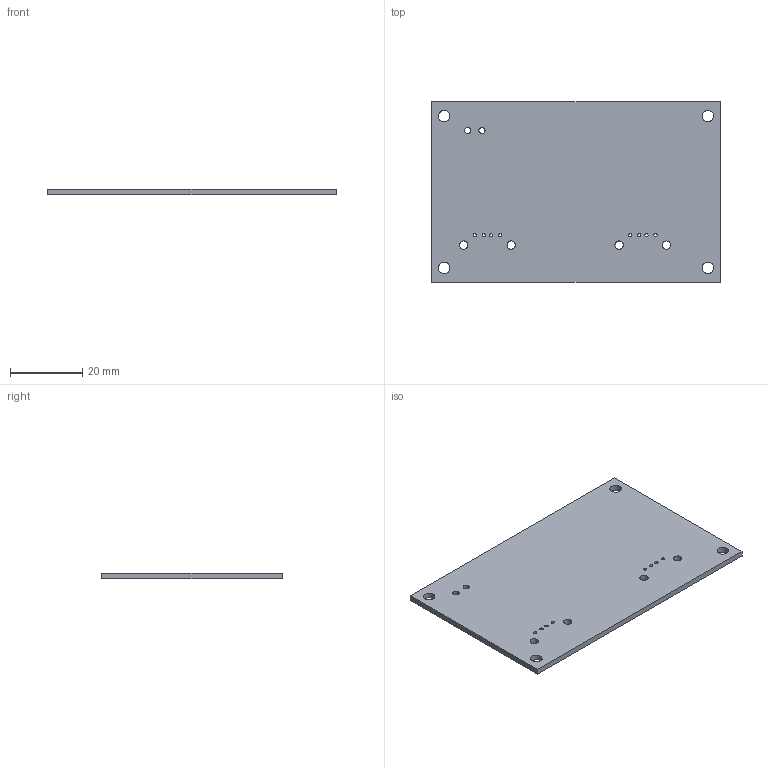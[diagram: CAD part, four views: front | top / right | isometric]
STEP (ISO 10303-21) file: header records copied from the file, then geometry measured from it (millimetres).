
FILE_DESCRIPTION(('Open CASCADE Model'),'2;1');
FILE_NAME('Open CASCADE Shape Model','2026-09-27T12:05:16',('Author'),( 'Open CASCADE'),'Open CASCADE STEP processor 8.0','Open CASCADE 8.0' ,'Unknown');
FILE_SCHEMA(('AUTOMOTIVE_DESIGN { 1 0 10303 214 1 1 1 1 }'));
Length unit declared in the file: millimetre
Products named in the file (1): Open CASCADE STEP translator 8.0 5
Bounding box: 80 x 50 x 1.6 mm (x, y, z)
Volume: 6305.2 mm3; surface area: 8463.3 mm2
Topology: 1 solids, 1 shells, 24 faces, 66 edges, 44 vertices
Faces by surface type: bspline 24
Entity records: 2158 total; most frequent: CARTESIAN_POINT 1293, ORIENTED_EDGE 132, PCURVE 132, DEFINITIONAL_REPRESENTATION 132, B_SPLINE_CURVE_WITH_KNOTS 126, EDGE_CURVE 66, FACE_BOUND 60, EDGE_LOOP 60
